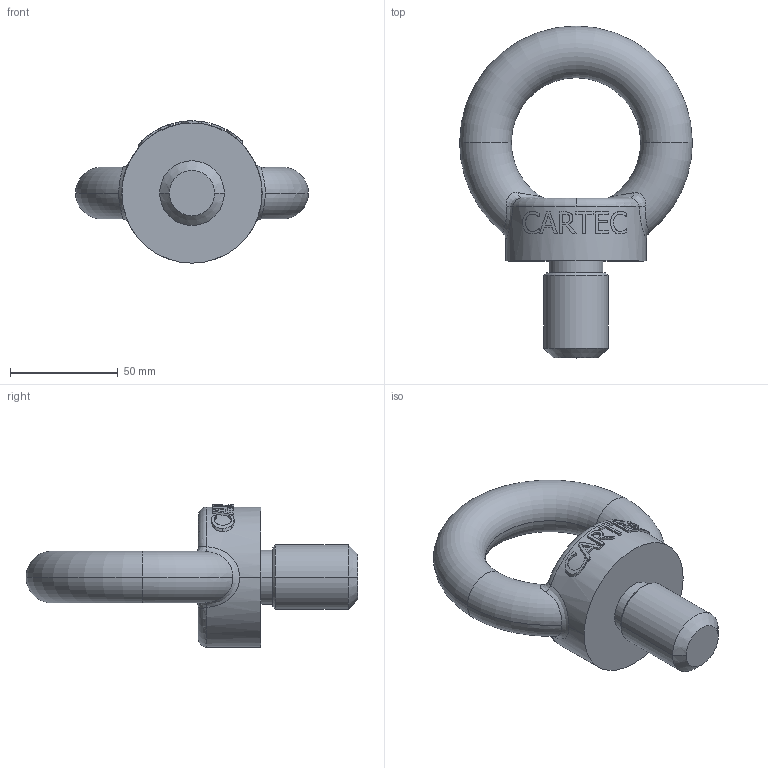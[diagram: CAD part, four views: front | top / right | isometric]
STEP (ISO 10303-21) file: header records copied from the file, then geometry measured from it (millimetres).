
FILE_DESCRIPTION(('STEP AP214'),'1');
FILE_NAME('c80330.stp','2017-03-22T15:19:13',('TraceParts'),('TraceParts S.A.'),'Spatial InterOp 3D',' ',' ');
FILE_SCHEMA(('automotive_design'));
Length unit declared in the file: millimetre
Products named in the file (1): c80330
Bounding box: 108 x 153.99 x 66 mm (x, y, z)
Volume: 216402.8 mm3; surface area: 31038.7 mm2
Topology: 1 solids, 1 shells, 129 faces, 341 edges, 222 vertices
Faces by surface type: plane 54, bspline 47, cylinder 14, torus 10, cone 4
Entity records: 6050 total; most frequent: CARTESIAN_POINT 2029, ORIENTED_EDGE 682, DIRECTION 515, EDGE_CURVE 341, VERTEX_POINT 222, AXIS2_PLACEMENT_3D 191, EDGE_LOOP 139, LINE 133
